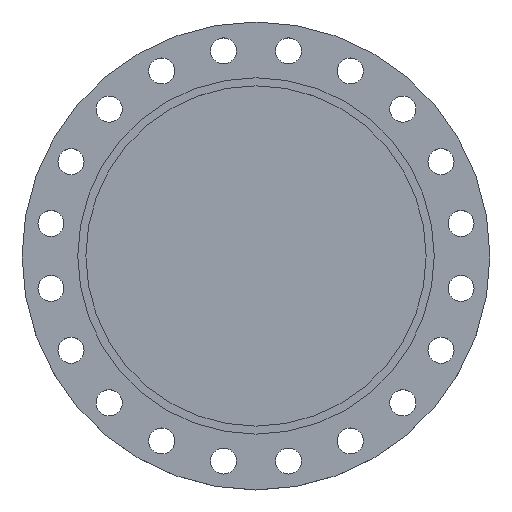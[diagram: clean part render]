
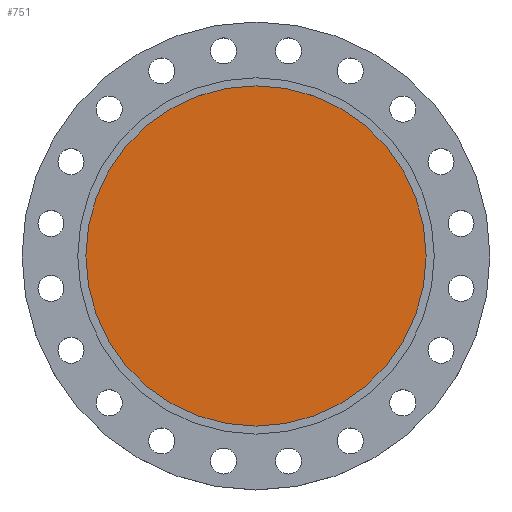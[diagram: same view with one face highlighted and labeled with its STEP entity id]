
A CAD part, top view. The second image highlights one B-rep face of the part: STEP entity #751.
In plain terms, the highlighted planar face has unit normal (0, 0, 1).
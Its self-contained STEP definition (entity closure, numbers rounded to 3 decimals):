
#60 = DIRECTION ( 'NONE',  ( 0., 0., -1. ) ) ;
#156 = CARTESIAN_POINT ( 'NONE',  ( 274.5, 0., -5.5 ) ) ;
#341 = DIRECTION ( 'NONE',  ( -1., 0., 0. ) ) ;
#342 = DIRECTION ( 'NONE',  ( 0., 0., -1. ) ) ;
#343 = CARTESIAN_POINT ( 'NONE',  ( 0., 0., -5.5 ) ) ;
#448 = CARTESIAN_POINT ( 'NONE',  ( -274.5, 0., -5.5 ) ) ;
#513 = DIRECTION ( 'NONE',  ( 1., 0., 0. ) ) ;
#516 = DIRECTION ( 'NONE',  ( 0., 0., 1. ) ) ;
#518 = CARTESIAN_POINT ( 'NONE',  ( 274.5, 0., -5.5 ) ) ;
#520 = PLANE ( 'NONE',  #1241 ) ;
#522 = FACE_OUTER_BOUND ( 'NONE', #1123, .T. ) ;
#751 = ADVANCED_FACE ( 'NONE', ( #522 ), #520, .T. ) ;
#854 = DIRECTION ( 'NONE',  ( -1., 0., 0. ) ) ;
#894 = VERTEX_POINT ( 'NONE', #448 ) ;
#947 = CIRCLE ( 'NONE', #1408, 274.5 ) ;
#987 = CIRCLE ( 'NONE', #988, 274.5 ) ;
#988 = AXIS2_PLACEMENT_3D ( 'NONE', #1575, #60, #854 ) ;
#1123 = EDGE_LOOP ( 'NONE', ( #1136, #1171 ) ) ;
#1136 = ORIENTED_EDGE ( 'NONE', *, *, #1148, .F. ) ;
#1148 = EDGE_CURVE ( 'NONE', #894, #1289, #947, .T. ) ;
#1171 = ORIENTED_EDGE ( 'NONE', *, *, #1739, .F. ) ;
#1241 = AXIS2_PLACEMENT_3D ( 'NONE', #518, #516, #513 ) ;
#1289 = VERTEX_POINT ( 'NONE', #156 ) ;
#1408 = AXIS2_PLACEMENT_3D ( 'NONE', #343, #342, #341 ) ;
#1575 = CARTESIAN_POINT ( 'NONE',  ( 0., 0., -5.5 ) ) ;
#1739 = EDGE_CURVE ( 'NONE', #1289, #894, #987, .T. ) ;
